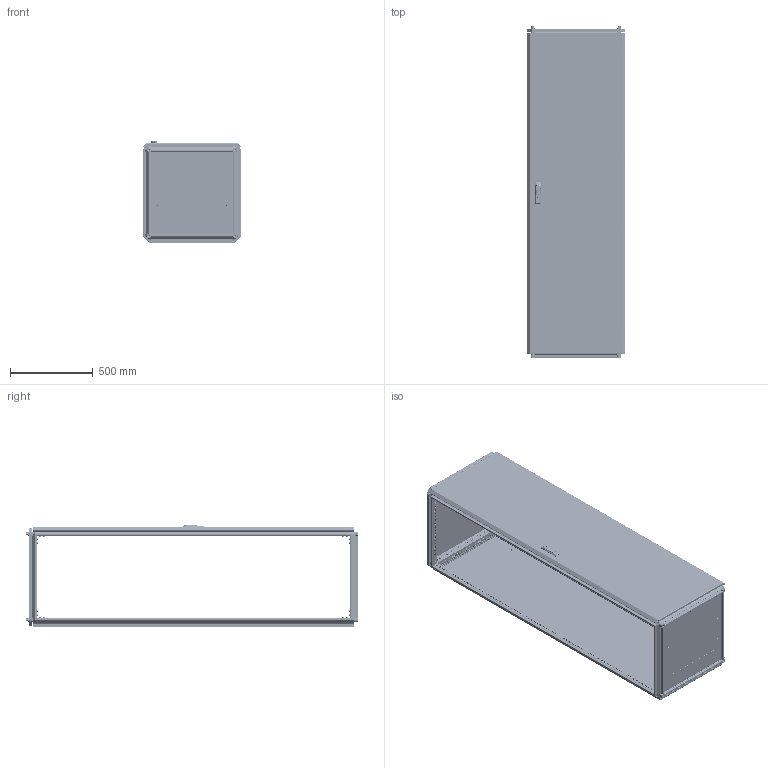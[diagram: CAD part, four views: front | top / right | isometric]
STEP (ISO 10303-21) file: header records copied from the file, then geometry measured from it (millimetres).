
FILE_DESCRIPTION (( 'STEP AP203' ), '1' );
FILE_NAME ('MA1.000.060620.10.00 AleSta2066 Øêàô AleSta 600õ600õ2000.STEP', '2024-08-23T08:24:56', ( '' ), ( '' ), 'SwSTEP 2.0', 'SolidWorks 2021', '' );
FILE_SCHEMA (( 'CONFIG_CONTROL_DESIGN' ));
Length unit declared in the file: millimetre
Products named in the file (50): 7380-2 ISO Âèíòû ñ ïîëóêðóãëîé ãîëîâêîé ñ ôëàíöåì ñ âíóòðåííèì øåñòèãðàííèêîì Ì4õ10; MA1.101.060620.20.02 Çàêðûòèå íèæíåé ïàíåëè 600õ600_600å600; MA1.102.060620.00.00 AleSta-VG2000 Ñòîéêè âåðòèêàëüíûå, Â=2000ìì  (4øò)_600å600; ﾘ琺矜 01.019 ﾃﾎﾑﾒ11371-78_12; Ãàéêà ñàìîêîíòðÿùàÿñÿ ñ íåéëîíîâîé âñòàâêîé Ì6 DIN 985, êëàññ ïðî÷íîñòè 8, îöèíêîâàííàÿ ñòàëü_Œ6; MA1.101.060620.00.00 AleSta-RB66 Êîìïëåêò êðûøà è îñíîâàíèå_600å600; MA1.200.060620.31.05 Óãëîâîé óïîð äâåðíîé òÿãè; Óïëîòíèòåëü ïàíåëè íèæíåé_ 600å600; Âèíò ñàìîíàðåçàþùèé ñ ïîòàéíîé ãîëîâêîé Ì5x14 DIN 7500 M TORX, êëàññ ïðî÷íîñòè 8.8, îöèíêîâàííàÿ ñòàëü_Œ5å14; Óïëîòíèòåëü ïàíåëè íèæíåé_‚=2000; MA1.200.060620.31.00 Äâåðü ñïëîøíàÿ äëÿ øêàôîâ ALESTA ÂõØ 2000õ600_2000å600; MA1.200.060620.31.02 Ðåéêà íà äâåðü âåðòèêàëüíàÿ Â = 2000_‚ =2000; MA1.102.060620.00.01 Ïðîôèëü âåðòèêàëüíûé ñâàðíîé_04 L=1898 (‚=2000); MA1.101.060620.00.02 Ïðîôèëü ïîïåðå÷íûé ñâàðíîé_01 L=498 (˜=600); Øàéáà ñòîïîðíàÿ ñ íàðóæíûìè çóáöàìè SCHNORR, òèï VS öèíêîâûå õëîïüÿ Ì6 O6,4 ART 88121_Œ6; Ïåòëÿ íà äâåðü ï-îáðàçíàÿ; MA1.200.060620.11.00 Ïàíåëü çàäíÿÿ, äëÿ øêàôîâ AleSta, 2000x600_2000å600; ﾘ琺矜 65ﾃ 019 ﾃﾎﾑﾒ 6402-70_12; MA1.101.060620.20.01 Ïîëîòíî íèæíåé ïàíåëè 600õ600_600å600; MA1.101.060620.10.01 Ïîëîòíî êðûøè 600õ600_600å600; MA1.101.060620.20.00 Íèæíÿÿ ïàíåëü 600õ600_600å600; Øïèëüêà Ì6õ12_˜¯¨«ìª  Œ6å20; Îñü ïåòëè 4õ52_‚¨­â A.M4x0,5x40 ƒŽ‘’ 11644-75; Ãàéêà ñàìîêîíòðÿùàÿñÿ ñ íåéëîíîâîé âñòàâêîé Ì6 DIN 985, êëàññ ïðî÷íîñòè 8, îöèíêîâàííàÿ ñòàëü_Œ5; äåðæàòåëü_êðóãëîé_òÿãèRG002-RG1010-2-i-RG1010-3-.stp; MA1.101.060620.10.00 ﾊ 600x600_600x600; MS463-2-3(1); Âèíò ñàìîíàðåçàþùèé ñ ïîòàéíîé ãîëîâêîé Ì5x14 DIN 7500 M TORX, êëàññ ïðî÷íîñòè 8.8, îöèíêîâàííàÿ ñòàëü_Œ5å12; Âèíò_ðåçüáîâûäàâëèâàþùèé_Ì5õ12_DIN 7500E_Œ5å12; Ïðîáêà ïëàñòèêîâàÿ óíèâåðñàëüíàÿ ïîä îòâåðñòèå 4,5 ìì, ñåðèÿ ST, öâåò áåñöâåòíûé – ST4,5; Âèíò ñ âí. øåñòèãðàííèêîì M12 DIN912_•30; êðåïëåíèå_êðóãëîé_òÿãè_RG1020-1.stp; ﾇﾀﾊﾋﾅﾏﾊﾀ ﾃﾀﾅﾗﾍﾀﾟ ﾘﾅﾑﾒﾈﾃﾐﾀﾍﾍﾀﾟ ﾑ ﾓﾌﾅﾍﾜﾘﾅﾍﾍﾛﾌ ﾁﾎﾐﾒﾎﾌ M4 X 11 (0.5-2.5 ﾌﾌ) HEX U-S ﾖﾈﾍﾊ; MA1.000.060620.10.00 AleSta2066 Øêàô AleSta 600õ600õ2000; MA1.200.060620.31.01 Ïîëîòíî äâåðè ñïëîøíîé 2000õ600_‚=2000; 諘蜱齁罻 022 瀁錒瀔隮; MA1.100.060620.00.01 Ñîåäèíèòåëü óãëîâîé_00; Âèíò_ðåçüáîâûäàâëèâàþùèé_Ì5õ12_DIN 7500E_00; Áîëò øåñòèãðàííûé Ì5õ12 DIN 933, êëàññ ïðî÷íîñòè 8.8, îöèíêîâàííàÿ ñòàëü; Óïëîòíèòåëü ïàíåëè íèæíåé_¯® ¢ëá®â¥ 600å2000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
Assembly tree (337 placements, depth 4):
  Ïðîáêà ïëàñòèêîâàÿ óíèâåðñàëüíàÿ ïîä îòâåðñòèå 4,5 ìì, ñåðèÿ ST, öâåò áåñöâåòíûé – ST4,5
  MA1.000.060620.10.00 AleSta2066 Øêàô AleSta 600õ600õ2000
    MA1.101.060620.00.00 AleSta-RB66 Êîìïëåêò êðûøà è îñíîâàíèå_600å600
      MA1.101.060620.00.02 Ïðîôèëü ïîïåðå÷íûé ñâàðíîé_01 L=498 (˜=600)  x8
      MA1.101.060620.10.00 ﾊ 600x600_600x600
        MA1.101.060620.10.01 Ïîëîòíî êðûøè 600õ600_600å600
        Øïèëüêà Ì6õ12_˜¯¨«ìª  Œ6å12  x4
        Óïëîòíèòåëü ïàíåëè íèæíåé_ 600å600
      MA1.101.060620.20.00 Íèæíÿÿ ïàíåëü 600õ600_600å600
        MA1.101.060620.20.01 Ïîëîòíî íèæíåé ïàíåëè 600õ600_600å600
        ﾇﾀﾊﾋﾅﾏﾊﾀ ﾃﾀﾅﾗﾍﾀﾟ ﾘﾅﾑﾒﾈﾃﾐﾀﾍﾍﾀﾟ ﾑ ﾓﾌﾅﾍﾜﾘﾅﾍﾍﾛﾌ ﾁﾎﾐﾒﾎﾌ M4 X 11 (0.5-2.5 ﾌﾌ) HEX U-S ﾖﾈﾍﾊ  x4
        MA1.101.060620.20.02 Çàêðûòèå íèæíåé ïàíåëè 600õ600_600å600  x2
        7380-2 ISO Âèíòû ñ ïîëóêðóãëîé ãîëîâêîé ñ ôëàíöåì ñ âíóòðåííèì øåñòèãðàííèêîì Ì4õ10  x4
      Âèíò_ðåçüáîâûäàâëèâàþùèé_Ì5õ12_DIN 7500E_Œ5å12  x8
      MA1.100.060620.00.01 Ñîåäèíèòåëü óãëîâîé_00  x8
      Âèíò ñ âí. øåñòèãðàííèêîì M12 DIN912_•30  x4
      Âèíò ðåçüáîâûäàâëèâàþùèé Ì6õ12 DIN 7500E_Œ6å10  x96
      ﾘ琺矜 01.019 ﾃﾎﾑﾒ11371-78_12  x4
      ﾘ琺矜 65ﾃ 019 ﾃﾎﾑﾒ 6402-70_12  x4
      Øàéáà ñòîïîðíàÿ ñ íàðóæíûìè çóáöàìè SCHNORR, òèï VS öèíêîâûå õëîïüÿ Ì6 O6,4 ART 88121_Œ6  x80
    MA1.102.060620.00.00 AleSta-VG2000 Ñòîéêè âåðòèêàëüíûå, Â=2000ìì  (4øò)_600å600
      MA1.102.060620.00.01 Ïðîôèëü âåðòèêàëüíûé ñâàðíîé_04 L=1898 (‚=2000)  x4
    MA1.200.060620.10.00 AleSta-PR206  Ïàíåëü çàäíÿÿ, äëÿ øêàôîâ ALESTA, 2000 x 600_2000å600
      MA1.200.060620.11.00 Ïàíåëü çàäíÿÿ, äëÿ øêàôîâ AleSta, 2000x600_2000å600
        MA1.200.060620.11.01 Ïîëîòíî çàäíåé ïàíåëè 2000õ600_2000å600
        Óïëîòíèòåëü ïàíåëè íèæíåé_¯® ¢ëá®â¥ 600å2000
        Øïèëüêà Ì6õ12_˜¯¨«ìª  Œ6å12  x4
      Âèíò ñàìîíàðåçàþùèé ñ ïîòàéíîé ãîëîâêîé Ì5x14 DIN 7500 M TORX, êëàññ ïðî÷íîñòè 8.8, îöèíêîâàííàÿ ñòàëü_Œ5å14  x8
    MA1.200.060620.30.00 AleSta-D20M600 Äâåðü ñïëîøíàÿ äëÿ øêàôîâ ALESTA ÂõØ 2000õ600_2000å600
      MA1.200.060620.31.00 Äâåðü ñïëîøíàÿ äëÿ øêàôîâ ALESTA ÂõØ 2000õ600_2000å600
        MA1.200.060620.31.01 Ïîëîòíî äâåðè ñïëîøíîé 2000õ600_‚=2000
        Óïëîòíèòåëü ïàíåëè íèæíåé_‚=2000
        Øïèëüêà Ì6õ12_˜¯¨«ìª  Œ6å20  x16
        Øïèëüêà Ì6õ12_˜¯¨«ìª  Œ6å16  x4
        Ïåòëÿ íà äâåðü ï-îáðàçíàÿ  x4
      MA1.200.060620.31.03 Ðåéêà íà äâåðü ãîðèçîíòàëüíàÿ Ø = 600_˜ = 600  x2
      諘蜱齁罻 022 瀁錒瀔隮  x4
      MA1.200.060620.31.02 Ðåéêà íà äâåðü âåðòèêàëüíàÿ Â = 2000_‚ =2000  x2
      äåðæàòåëü_êðóãëîé_òÿãèRG002-RG1010-2-i-RG1010-3-.stp  x2
      òÿãà_lg001-2.STEP_‚=2000  x2
      êðåïëåíèå_êðóãëîé_òÿãè_RG1020-1.stp  x2
      MS463-2-3(1)
      Ãàéêà ñàìîêîíòðÿùàÿñÿ ñ íåéëîíîâîé âñòàâêîé Ì6 DIN 985, êëàññ ïðî÷íîñòè 8, îöèíêîâàííàÿ ñòàëü_Œ6  x16
      Ãàéêà ñàìîêîíòðÿùàÿñÿ ñ íåéëîíîâîé âñòàâêîé Ì6 DIN 985, êëàññ ïðî÷íîñòè 8, îöèíêîâàííàÿ ñòàëü_Œ5  x2
      Áîëò øåñòèãðàííûé Ì5õ12 DIN 933, êëàññ ïðî÷íîñòè 8.8, îöèíêîâàííàÿ ñòàëü  x2
      MA1.200.060620.31.04 ðèãåëü çàìêà äâåðè
      MA1.200.060620.31.05 Óãëîâîé óïîð äâåðíîé òÿãè  x2
      Âèíò_ðåçüáîâûäàâëèâàþùèé_Ì5õ12_DIN 7500E_00  x2
      Íàâåñêà íà êîðïóñ ïîä êëåïêó  x4
      Îñü ïåòëè 4õ52_‚¨­â A.M4x0,5x40 ƒŽ‘’ 11644-75  x4
      Âèíò ñàìîíàðåçàþùèé ñ ïîòàéíîé ãîëîâêîé Ì5x14 DIN 7500 M TORX, êëàññ ïðî÷íîñòè 8.8, îöèíêîâàííàÿ ñòàëü_Œ5å12  x8
Bounding box: 592 x 2010.9 x 616.8 mm (x, y, z)
Volume: 9128093.2 mm3; surface area: 11573468.3 mm2
Topology: 364 solids, 378 shells, 23819 faces, 61494 edges, 38504 vertices
Faces by surface type: plane 14249, cylinder 6877, bspline 921, cone 845, torus 829, sphere 98
Entity records: 240474 total; most frequent: CARTESIAN_POINT 78453, ORIENTED_EDGE 30910, DIRECTION 30382, EDGE_CURVE 15472, AXIS2_PLACEMENT_3D 10470, VERTEX_POINT 9649, LINE 9442, VECTOR 9442
